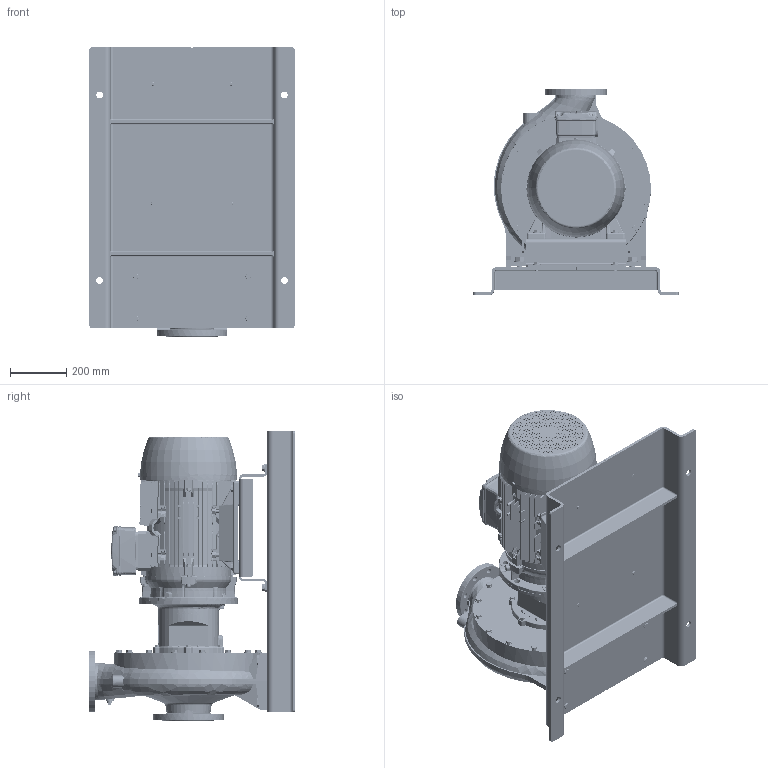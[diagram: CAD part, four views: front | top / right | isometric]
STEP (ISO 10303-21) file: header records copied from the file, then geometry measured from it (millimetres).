
FILE_DESCRIPTION (( 'STEP AP214' ), '1' );
FILE_NAME ('GSD4 100-400_18.5 & 22_(180ML)_W21_BP.STEP', '2026-05-08T05:13:20', ( '' ), ( '' ), 'SwSTEP 2.0', 'SolidWorks 2024', '' );
FILE_SCHEMA (( 'AUTOMOTIVE_DESIGN' ));
Length unit declared in the file: millimetre
Products named in the file (13): Parametric Flat Washer_M20; CGS11-5264; Parametric Flat Washer_M12; Parametric bolt and washer_SFT-A305B; 180M_L ALIE3_W21T_B35; 100-400-180M_L_ﾃﾞﾌｫﾙﾄ; Parametric bolt and washer_SFT-A403B; Parametric bolt_SFT-A403B; N9S5 GSDA-953 F1-1832967-00; GSD4 100-400_18.5 & 22_(180ML)_W21_BP; Parametric bolt and washer_SFT-A297B; Parametric bolt_SFT-A305B; Parametric bolt_SFT-A297B
Assembly tree (22 placements, depth 3):
  GSD4 100-400_18.5 & 22_(180ML)_W21_BP
    100-400-180M_L_ﾃﾞﾌｫﾙﾄ
    N9S5 GSDA-953 F1-1832967-00
    CGS11-5264
    Parametric bolt and washer_SFT-A403B  x4
      Parametric bolt_SFT-A403B
      Parametric Flat Washer_M20
    Parametric bolt and washer_SFT-A297B  x4
      Parametric bolt_SFT-A297B
      Parametric Flat Washer_M12
    Parametric bolt and washer_SFT-A305B  x4
      Parametric bolt_SFT-A305B
      Parametric Flat Washer_M12
    180M_L ALIE3_W21T_B35
Bounding box: 730 x 735 x 1030 mm (x, y, z)
Volume: 60721233.7 mm3; surface area: 6404538.2 mm2
Topology: 58 solids, 59 shells, 6794 faces, 17565 edges, 11355 vertices
Faces by surface type: plane 3982, cylinder 1386, cone 686, bspline 463, torus 261, sphere 16
Entity records: 239422 total; most frequent: CARTESIAN_POINT 93804, ORIENTED_EDGE 32018, DIRECTION 27066, EDGE_CURVE 16009, VERTEX_POINT 10350, VECTOR 10002, LINE 10002, AXIS2_PLACEMENT_3D 8532
